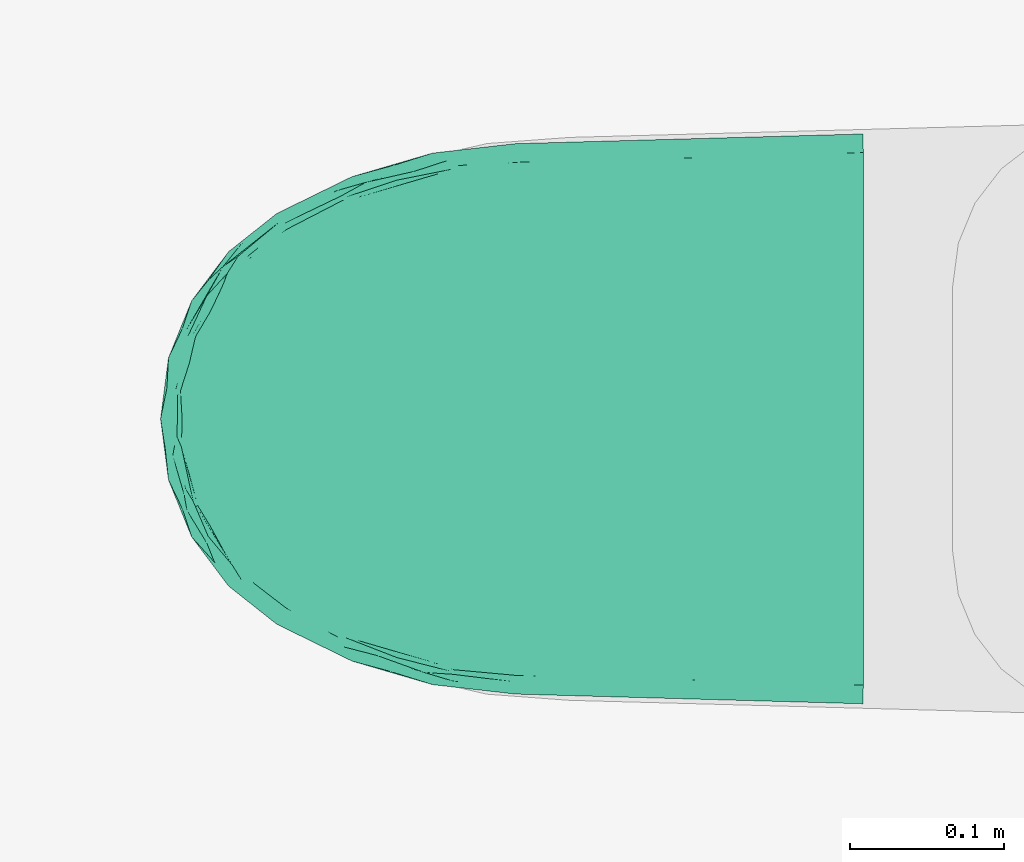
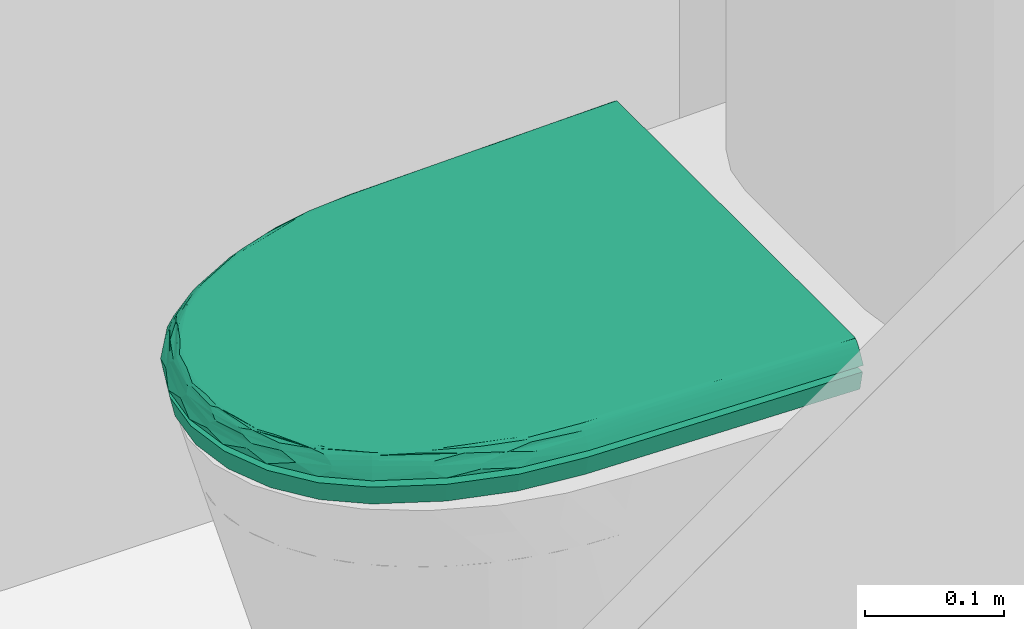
# One storey, part 65 of 75: 1 flow terminal.
"""IFC2X3 building model written with IfcOpenShell, lengths in metres."""

from ifc_helpers import new_model, entity, si_unit, converted_unit, derived_unit, direction, frame, origin, place, context, subcontext, project, spatial, faceted_brep, source, transform, mapped, material, type_object, type_shapes, element, save


model = new_model("IFC2X3")

# Units and contexts
model_context = context("Model", 3, precision=1e-05, world=origin(), true_north=direction((6.12303176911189e-17, 1.0)))
body_context = subcontext(model_context, "Body", "Model", "MODEL_VIEW")
ifc_project = project(units=[si_unit("LENGTHUNIT", "METRE"), si_unit("AREAUNIT", "SQUARE_METRE"), si_unit("VOLUMEUNIT", "CUBIC_METRE"), converted_unit("PLANEANGLEUNIT", "DEGREE", entity("IfcRatioMeasure", 0.0174532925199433), si_unit("PLANEANGLEUNIT", "RADIAN"), dimensions=[0, 0, 0, 0, 0, 0, 0]), si_unit("MASSUNIT", "GRAM", prefix="KILO"), derived_unit("MASSDENSITYUNIT", [(si_unit("MASSUNIT", "GRAM", prefix="KILO"), 1), (si_unit("LENGTHUNIT", "METRE"), -3)]), derived_unit("MOMENTOFINERTIAUNIT", [(si_unit("LENGTHUNIT", "METRE"), 4)]), si_unit("TIMEUNIT", "SECOND"), si_unit("FREQUENCYUNIT", "HERTZ"), si_unit("THERMODYNAMICTEMPERATUREUNIT", "DEGREE_CELSIUS"), derived_unit("THERMALTRANSMITTANCEUNIT", [(si_unit("MASSUNIT", "GRAM", prefix="KILO"), 1), (si_unit("THERMODYNAMICTEMPERATUREUNIT", "KELVIN"), -1), (si_unit("TIMEUNIT", "SECOND"), -3)]), derived_unit("VOLUMETRICFLOWRATEUNIT", [(si_unit("LENGTHUNIT", "METRE"), 3), (si_unit("TIMEUNIT", "SECOND"), -1)]), si_unit("ELECTRICCURRENTUNIT", "AMPERE"), si_unit("ELECTRICVOLTAGEUNIT", "VOLT"), si_unit("POWERUNIT", "WATT"), si_unit("FORCEUNIT", "NEWTON", prefix="KILO"), si_unit("ILLUMINANCEUNIT", "LUX"), si_unit("LUMINOUSFLUXUNIT", "LUMEN"), si_unit("LUMINOUSINTENSITYUNIT", "CANDELA"), derived_unit("USERDEFINED", [(si_unit("MASSUNIT", "GRAM", prefix="KILO"), -1), (si_unit("LENGTHUNIT", "METRE"), -2), (si_unit("TIMEUNIT", "SECOND"), 3), (si_unit("LUMINOUSFLUXUNIT", "LUMEN"), 1)]), derived_unit("LINEARVELOCITYUNIT", [(si_unit("LENGTHUNIT", "METRE"), 1), (si_unit("TIMEUNIT", "SECOND"), -1)]), si_unit("PRESSUREUNIT", "PASCAL"), derived_unit("USERDEFINED", [(si_unit("LENGTHUNIT", "METRE"), -2), (si_unit("MASSUNIT", "GRAM", prefix="KILO"), 1), (si_unit("TIMEUNIT", "SECOND"), -2)]), derived_unit("LINEARFORCEUNIT", [(si_unit("MASSUNIT", "GRAM", prefix="KILO"), 1), (si_unit("LENGTHUNIT", "METRE"), 1), (si_unit("TIMEUNIT", "SECOND"), -2), (si_unit("LENGTHUNIT", "METRE"), -1)]), derived_unit("PLANARFORCEUNIT", [(si_unit("MASSUNIT", "GRAM", prefix="KILO"), 1), (si_unit("LENGTHUNIT", "METRE"), 1), (si_unit("TIMEUNIT", "SECOND"), -2), (si_unit("LENGTHUNIT", "METRE"), -2)])], contexts=[model_context])

# Site, building, storey
site_placement = place(None, origin())
site = spatial("IfcSite", under=ifc_project, at=site_placement, Name="Superficie", CompositionType="ELEMENT")
building_placement = place(site_placement, origin())
building = spatial("IfcBuilding", under=site, at=building_placement, Name="Telegestiones", CompositionType="ELEMENT")
storey_placement = place(building_placement, origin())
storey = spatial("IfcBuildingStorey", under=building, at=storey_placement, Name="Nivel 0_NPT", CompositionType="ELEMENT", Elevation=0.0)

# Flow terminal
ifc_material = material(Name="Plastico - Ferrum - Urea - Blanco")
distribution_element_type = type_object("IfcDistributionElementType", Name="Inodoro-Ferrum-Marina-Tapa_y_Asiento:Tapa de Inodoro", material=ifc_material)
shared_shape = source(origin(), body_context, "Body", "Brep", [
    faceted_brep([(0.001595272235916, 0.456635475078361, 0.024059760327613), (0.00438804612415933, 0.456713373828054, 0.0292542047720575), (0.0069939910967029, 0.45678606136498, 0.0335042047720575), (0.00941310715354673, 0.456853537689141, 0.036809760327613), (0.0116453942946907, 0.456915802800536, 0.0391708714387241), (0.0136908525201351, 0.456972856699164, 0.0405875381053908), (0.0155494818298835, 0.457024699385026, 0.041059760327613), (0.0155494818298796, 0.457024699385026, 0.0240597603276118), (0.356866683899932, 0.457024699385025, 0.024059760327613), (0.356866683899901, 0.457024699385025, 0.041059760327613), (0.358725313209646, 0.456972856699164, 0.0405875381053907), (0.36077077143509, 0.456915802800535, 0.0391708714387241), (0.363003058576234, 0.456853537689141, 0.036809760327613), (0.365422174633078, 0.45678606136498, 0.0335042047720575), (0.368028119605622, 0.456713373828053, 0.0292542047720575), (0.370820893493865, 0.456635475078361, 0.024059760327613), (0.0165302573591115, 0.421862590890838, 0.041059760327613), (0.0178998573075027, 0.372760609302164, 0.041059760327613), (0.0198614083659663, 0.302436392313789, 0.041059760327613), (0.0218229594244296, 0.23211217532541, 0.0410597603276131), (0.027695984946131, 0.180536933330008, 0.0410597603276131), (0.0422596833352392, 0.130713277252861, 0.0410597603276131), (0.0650892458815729, 0.0840945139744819, 0.041059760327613), (0.0876065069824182, 0.055650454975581, 0.041059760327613), (0.116624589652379, 0.0338779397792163, 0.041059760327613), (0.150230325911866, 0.0202124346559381, 0.0410597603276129), (0.186208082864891, 0.0155549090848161, 0.0410597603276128), (0.222185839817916, 0.0202124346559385, 0.0410597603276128), (0.255791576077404, 0.0338779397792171, 0.0410597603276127), (0.284809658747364, 0.0556504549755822, 0.0410597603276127), (0.307326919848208, 0.0840945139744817, 0.0410597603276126), (0.330156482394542, 0.130713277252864, 0.0410597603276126), (0.34472018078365, 0.180536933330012, 0.0410597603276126), (0.350593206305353, 0.232112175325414, 0.0410597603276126), (0.351573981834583, 0.267274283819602, 0.041059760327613), (0.352943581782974, 0.316376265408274, 0.041059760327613), (0.354905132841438, 0.38670048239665, 0.041059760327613), (0.359621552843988, 0.29306195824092, 0.0352750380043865), (0.361625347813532, 0.274753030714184, 0.0314972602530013), (0.36307674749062, 0.326787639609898, 0.0314972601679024), (0.365222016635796, 0.403698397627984, 0.0314972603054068), (0.362298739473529, 0.389042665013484, 0.0352750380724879), (0.357834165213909, 0.389167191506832, 0.0399972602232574), (0.356913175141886, 0.410045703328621, 0.0408017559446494), (0.357025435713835, 0.344476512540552, 0.0396759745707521), (0.360402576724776, 0.404507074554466, 0.0381083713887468), (0.353536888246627, 0.291789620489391, 0.0408295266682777), (0.355341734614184, 0.299810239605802, 0.0399972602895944), (0.357035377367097, 0.283788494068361, 0.0381083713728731), (0.352451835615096, 0.232060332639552, 0.0405875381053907), (0.356729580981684, 0.231941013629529, 0.0368097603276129), (0.35449729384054, 0.232003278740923, 0.039170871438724), (0.365723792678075, 0.350304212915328, 0.028075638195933), (0.366508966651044, 0.302047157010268, 0.024059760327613), (0.368470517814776, 0.372371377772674, 0.024059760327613), (0.355332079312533, 0.348898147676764, 0.0407542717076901), (0.364180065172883, 0.300719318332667, 0.0283642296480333), (0.359148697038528, 0.231873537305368, 0.0335042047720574), (0.361754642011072, 0.231800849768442, 0.0292542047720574), (0.367244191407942, 0.398171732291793, 0.0277403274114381), (0.36964570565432, 0.414503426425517, 0.024059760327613), (0.360553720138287, 0.34106364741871, 0.0358205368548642), (0.358726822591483, 0.344429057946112, 0.0381083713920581), (0.364547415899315, 0.231722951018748, 0.024059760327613), (0.358404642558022, 0.177778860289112, 0.024059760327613), (0.34317203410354, 0.125666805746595, 0.024059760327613), (0.31929391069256, 0.076906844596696, 0.0240597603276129), (0.294551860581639, 0.0456524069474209, 0.0240597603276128), (0.262666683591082, 0.0217286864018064, 0.0240597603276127), (0.225740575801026, 0.00671297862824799, 0.0240597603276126), (0.18620808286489, 0.00159527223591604, 0.0240597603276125), (0.146675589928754, 0.00671297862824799, 0.0240597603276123), (0.109749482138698, 0.0217286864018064, 0.0240597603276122), (0.077864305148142, 0.0456524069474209, 0.0240597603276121), (0.0531222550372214, 0.0769068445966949, 0.024059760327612), (0.029244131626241, 0.125666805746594, 0.0240597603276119), (0.0140115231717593, 0.17777886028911, 0.0240597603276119), (0.00786874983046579, 0.231722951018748, 0.0240597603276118), (0.00669356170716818, 0.273855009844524, 0.024059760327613), (0.00551837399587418, 0.315987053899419, 0.024059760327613), (0.00355682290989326, 0.38631127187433, 0.024059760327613), (0.348766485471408, 0.19184404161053, 0.0405359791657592), (0.349863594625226, 0.189923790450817, 0.0396286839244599), (0.310675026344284, 0.0820835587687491, 0.039170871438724), (0.312589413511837, 0.0809337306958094, 0.0368097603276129), (0.339580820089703, 0.141992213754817, 0.0380822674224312), (0.316898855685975, 0.0783453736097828, 0.0292542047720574), (0.334448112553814, 0.116810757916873, 0.0324641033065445), (0.314664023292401, 0.0796876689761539, 0.0335042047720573), (0.351727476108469, 0.191045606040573, 0.0380922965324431), (0.350466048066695, 0.172235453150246, 0.035239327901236), (0.357674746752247, 0.188271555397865, 0.0289584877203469), (0.348361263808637, 0.152432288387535, 0.0307862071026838), (0.336324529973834, 0.116342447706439, 0.0292921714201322), (0.3340712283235, 0.120766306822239, 0.0352481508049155), (0.349702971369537, 0.149947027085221, 0.0272890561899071), (0.328370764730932, 0.122507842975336, 0.0407801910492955), (0.308920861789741, 0.0831371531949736, 0.0405875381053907), (0.340839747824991, 0.154630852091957, 0.0402739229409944), (0.326302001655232, 0.114016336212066, 0.039960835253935), (0.356097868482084, 0.191008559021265, 0.0323074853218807), (0.206137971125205, 0.00469480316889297, 0.0274750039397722), (0.0918736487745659, 0.0448195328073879, 0.0379312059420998), (0.0617411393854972, 0.0820835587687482, 0.0391708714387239), (0.0598267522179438, 0.0809337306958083, 0.0368097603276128), (0.271117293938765, 0.042209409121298, 0.0407977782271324), (0.242566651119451, 0.0257569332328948, 0.0407855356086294), (0.239485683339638, 0.0226589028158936, 0.0398351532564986), (0.281086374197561, 0.0481515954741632, 0.0399058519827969), (0.197949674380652, 0.0122613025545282, 0.0392893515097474), (0.20434819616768, 0.0150990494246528, 0.0407002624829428), (0.168067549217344, 0.0144776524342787, 0.0403940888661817), (0.170441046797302, 0.00822595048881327, 0.034090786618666), (0.166278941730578, 0.00570428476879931, 0.0292662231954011), (0.206136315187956, 0.00691960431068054, 0.0313090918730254), (0.127777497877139, 0.0157377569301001, 0.0287773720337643), (0.292755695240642, 0.0621048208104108, 0.0408263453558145), (0.0960686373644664, 0.043351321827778, 0.0393951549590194), (0.132914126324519, 0.0216644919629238, 0.0390716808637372), (0.101228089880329, 0.0411914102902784, 0.0403940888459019), (0.290126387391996, 0.0537118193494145, 0.0379796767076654), (0.279094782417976, 0.0365256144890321, 0.0300373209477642), (0.298002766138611, 0.0556782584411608, 0.0320683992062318), (0.294844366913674, 0.0552482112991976, 0.0351018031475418), (0.299417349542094, 0.0541811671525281, 0.0285967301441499), (0.127833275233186, 0.0186776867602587, 0.0332865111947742), (0.166466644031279, 0.0116486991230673, 0.037846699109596), (0.170334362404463, 0.0127334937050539, 0.0393546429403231), (0.244637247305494, 0.0158147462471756, 0.0289041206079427), (0.262322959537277, 0.0324450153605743, 0.0385687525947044), (0.0634953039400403, 0.0831371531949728, 0.0405875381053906), (0.0809354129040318, 0.0605511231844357, 0.0407924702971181), (0.0874076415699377, 0.0421879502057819, 0.0311281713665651), (0.0732843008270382, 0.0535465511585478, 0.0282099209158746), (0.0959605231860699, 0.0328608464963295, 0.0276535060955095), (0.0786474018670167, 0.0607623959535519, 0.0399426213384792), (0.132957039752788, 0.024235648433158, 0.0407002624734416), (0.0577521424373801, 0.0796876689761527, 0.0335042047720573), (0.0807690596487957, 0.0519072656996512, 0.0350760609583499), (0.132771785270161, 0.0192933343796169, 0.0366404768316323), (0.235685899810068, 0.0169871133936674, 0.0356307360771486), (0.266675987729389, 0.0315725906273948, 0.0348948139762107), (0.231657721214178, 0.0178496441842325, 0.038162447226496), (0.106545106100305, 0.0314888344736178, 0.035394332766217), (0.0555173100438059, 0.0783453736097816, 0.0292542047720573), (0.245448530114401, 0.0186226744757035, 0.0326873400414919), (0.204351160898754, 0.0105368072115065, 0.0368097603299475), (0.210021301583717, 0.00948524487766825, 0.0343542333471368), (0.0449403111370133, 0.119006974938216, 0.0405359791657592), (0.0429816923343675, 0.120034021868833, 0.0396286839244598), (0.0179188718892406, 0.232003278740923, 0.0391708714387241), (0.0156865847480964, 0.231941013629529, 0.036809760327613), (0.0258300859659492, 0.165957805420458, 0.0380822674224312), (0.0106615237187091, 0.231800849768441, 0.0292542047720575), (0.0165922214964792, 0.189939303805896, 0.0324641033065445), (0.0132674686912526, 0.231873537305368, 0.0335042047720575), (0.0420154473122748, 0.118084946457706, 0.0380922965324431), (0.0329472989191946, 0.134613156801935, 0.035239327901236), (0.0355103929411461, 0.117219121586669, 0.0289584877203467), (0.0240549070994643, 0.152432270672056, 0.0307862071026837), (0.0147589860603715, 0.189323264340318, 0.0292921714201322), (0.0190401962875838, 0.186809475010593, 0.0352481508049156), (0.0215858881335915, 0.153803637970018, 0.0272890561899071), (0.0247811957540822, 0.1884123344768, 0.0407801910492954), (0.019964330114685, 0.232060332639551, 0.0405875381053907), (0.0315764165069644, 0.154630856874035, 0.0402739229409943), (0.0219508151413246, 0.196681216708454, 0.039960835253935), (0.0383131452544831, 0.115762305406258, 0.0323074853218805), (0.00993267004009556, 0.395666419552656, 0.0352750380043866), (0.00691140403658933, 0.413835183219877, 0.0314972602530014), (0.00836280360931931, 0.361800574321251, 0.0314972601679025), (0.0170744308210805, 0.299810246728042, 0.0399972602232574), (0.0191578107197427, 0.279015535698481, 0.0408017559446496), (0.0153907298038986, 0.344476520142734, 0.0396759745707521), (0.0153650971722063, 0.284351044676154, 0.0381083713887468), (0.0159369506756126, 0.397275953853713, 0.0408295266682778), (0.0126098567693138, 0.299685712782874, 0.0352750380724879), (0.0145820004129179, 0.389167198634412, 0.0399972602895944), (0.0119978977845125, 0.40506962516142, 0.0381083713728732), (0.0070307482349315, 0.338173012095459, 0.0280756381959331), (0.0105080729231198, 0.284889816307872, 0.0314972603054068), (0.0173279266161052, 0.340156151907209, 0.0407542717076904), (0.00580808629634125, 0.387766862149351, 0.0283642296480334), (0.00818097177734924, 0.290295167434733, 0.027740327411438), (0.0116776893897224, 0.347687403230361, 0.0358205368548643), (0.0136893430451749, 0.344429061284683, 0.0381083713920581)], [[[0, 1, 2, 3, 4, 5, 6, 7]], [[8, 9, 10, 11, 12, 13, 14, 15]], [[6, 16, 17, 18, 19, 20, 21, 22, 23, 24, 25, 26, 27, 28, 29, 30, 31, 32, 33, 34, 35, 36, 9]], [[6, 9, 8, 7]], [[37, 38, 39]], [[40, 41, 39]], [[42, 10, 43]], [[44, 45, 42]], [[45, 12, 11]], [[34, 46, 35]], [[10, 9, 43]], [[13, 12, 41]], [[47, 48, 44]], [[46, 34, 49]], [[50, 37, 48]], [[49, 51, 47]], [[51, 50, 48]], [[52, 53, 54]], [[14, 13, 40]], [[55, 43, 36]], [[52, 56, 53]], [[11, 10, 42]], [[50, 57, 37]], [[42, 45, 11]], [[38, 57, 58]], [[38, 58, 56]], [[59, 60, 14]], [[46, 47, 55]], [[13, 41, 40]], [[37, 39, 61]], [[41, 45, 62]], [[63, 56, 58]], [[62, 61, 41]], [[54, 59, 52]], [[12, 45, 41]], [[44, 48, 62, 45]], [[51, 48, 47]], [[62, 48, 61]], [[57, 38, 37]], [[39, 38, 56]], [[52, 39, 56]], [[63, 53, 56]], [[52, 40, 39]], [[40, 52, 59]], [[59, 14, 40]], [[34, 33, 49]], [[15, 14, 60]], [[59, 54, 60]], [[35, 46, 55]], [[47, 46, 49]], [[35, 55, 36]], [[44, 42, 55]], [[47, 44, 55]], [[42, 43, 55]], [[36, 43, 9]], [[41, 61, 39]], [[37, 61, 48]], [[8, 15, 60, 54, 53, 63, 64, 65, 66, 67, 68, 69, 70, 71, 72, 73, 74, 75, 76, 77, 78, 79, 80, 0, 7]], [[81, 82, 49]], [[83, 84, 85]], [[32, 81, 33]], [[86, 87, 88]], [[89, 90, 50]], [[89, 82, 85]], [[58, 91, 63]], [[90, 89, 85]], [[92, 87, 93]], [[87, 94, 88]], [[90, 57, 50]], [[95, 91, 92]], [[51, 89, 50]], [[85, 94, 90]], [[32, 31, 96]], [[90, 87, 92]], [[30, 97, 96]], [[33, 81, 49]], [[81, 98, 82]], [[99, 98, 96]], [[91, 100, 92]], [[99, 85, 98]], [[87, 86, 93]], [[94, 87, 90]], [[91, 58, 100]], [[84, 88, 94]], [[66, 65, 93]], [[92, 93, 95]], [[82, 89, 51]], [[85, 84, 94]], [[85, 82, 98]], [[96, 31, 30]], [[32, 98, 81]], [[49, 82, 51]], [[66, 93, 86]], [[95, 93, 65]], [[65, 64, 95]], [[64, 63, 91]], [[64, 91, 95]], [[100, 58, 57]], [[57, 90, 100]], [[90, 92, 100]], [[99, 97, 83]], [[32, 96, 98]], [[97, 99, 96]], [[85, 99, 83]], [[69, 101, 70]], [[102, 103, 104]], [[105, 29, 28]], [[105, 106, 107]], [[105, 107, 108]], [[109, 110, 111]], [[111, 110, 26]], [[112, 113, 114]], [[71, 115, 72]], [[116, 30, 29]], [[117, 118, 119]], [[108, 83, 97]], [[84, 83, 120]], [[67, 121, 68]], [[122, 88, 123]], [[86, 124, 66]], [[26, 110, 27]], [[120, 83, 108]], [[113, 112, 125]], [[88, 122, 86]], [[126, 109, 127]], [[84, 123, 88]], [[128, 69, 68]], [[68, 121, 128]], [[111, 26, 25]], [[106, 110, 107]], [[70, 113, 71]], [[122, 124, 86]], [[108, 129, 120]], [[109, 107, 110]], [[22, 130, 131]], [[132, 133, 134]], [[117, 119, 135]], [[119, 136, 24]], [[24, 23, 119]], [[118, 111, 136]], [[105, 116, 29]], [[137, 138, 104]], [[115, 132, 134]], [[112, 126, 139]], [[138, 137, 132]], [[103, 135, 130]], [[115, 71, 113]], [[101, 113, 70]], [[74, 73, 133]], [[140, 141, 129]], [[142, 140, 129]], [[143, 125, 139]], [[144, 133, 137]], [[138, 143, 102]], [[133, 132, 137]], [[25, 24, 136]], [[141, 140, 145]], [[130, 135, 131]], [[127, 118, 126]], [[109, 146, 142]], [[118, 136, 119]], [[111, 25, 136]], [[143, 132, 125]], [[102, 104, 138]], [[129, 108, 107]], [[123, 120, 141]], [[145, 121, 141]], [[101, 128, 114]], [[147, 112, 114]], [[126, 146, 109]], [[113, 125, 115]], [[132, 115, 125]], [[139, 126, 118]], [[112, 146, 126]], [[120, 123, 84]], [[122, 141, 121]], [[102, 139, 118]], [[112, 139, 125]], [[105, 28, 106]], [[116, 108, 97]], [[28, 27, 106]], [[110, 106, 27]], [[142, 129, 107]], [[141, 120, 129]], [[109, 142, 107]], [[142, 146, 140]], [[146, 147, 140]], [[145, 114, 128]], [[145, 140, 147]], [[121, 145, 128]], [[108, 116, 105]], [[30, 116, 97]], [[102, 135, 103]], [[131, 119, 23]], [[119, 131, 135]], [[22, 131, 23]], [[141, 122, 123]], [[122, 121, 124]], [[121, 67, 124]], [[66, 124, 67]], [[102, 143, 139]], [[132, 143, 138]], [[112, 147, 146]], [[145, 147, 114]], [[135, 102, 117]], [[118, 117, 102]], [[128, 101, 69]], [[113, 101, 114]], [[74, 133, 144]], [[134, 73, 72]], [[73, 134, 133]], [[115, 134, 72]], [[109, 111, 127]], [[118, 127, 111]], [[148, 149, 130]], [[150, 151, 152]], [[21, 148, 22]], [[153, 154, 155]], [[156, 157, 104]], [[156, 149, 152]], [[144, 158, 74]], [[157, 156, 152]], [[159, 154, 160]], [[154, 161, 155]], [[157, 137, 104]], [[162, 158, 159]], [[103, 156, 104]], [[152, 161, 157]], [[21, 20, 163]], [[157, 154, 159]], [[19, 164, 163]], [[22, 148, 130]], [[148, 165, 149]], [[166, 165, 163]], [[158, 167, 159]], [[166, 152, 165]], [[154, 153, 160]], [[161, 154, 157]], [[158, 144, 167]], [[151, 155, 161]], [[77, 76, 160]], [[159, 160, 162]], [[149, 156, 103]], [[152, 151, 161]], [[152, 149, 165]], [[163, 20, 19]], [[21, 165, 148]], [[130, 149, 103]], [[77, 160, 153]], [[162, 160, 76]], [[76, 75, 162]], [[75, 74, 158]], [[75, 158, 162]], [[167, 144, 137]], [[137, 157, 167]], [[157, 159, 167]], [[166, 164, 150]], [[21, 163, 165]], [[164, 166, 163]], [[152, 166, 150]], [[168, 169, 170]], [[171, 164, 172]], [[173, 174, 171]], [[174, 151, 150]], [[16, 175, 17]], [[164, 19, 172]], [[155, 151, 176]], [[177, 178, 173]], [[175, 16, 5]], [[3, 168, 178]], [[5, 4, 177]], [[4, 3, 178]], [[179, 80, 79]], [[153, 155, 180]], [[181, 172, 18]], [[179, 182, 80]], [[150, 164, 171]], [[3, 2, 168]], [[171, 174, 150]], [[169, 2, 1]], [[169, 1, 182]], [[183, 78, 153]], [[175, 177, 181]], [[155, 176, 180]], [[168, 170, 184]], [[176, 174, 185]], [[0, 182, 1]], [[185, 184, 176]], [[79, 183, 179]], [[180, 176, 170]], [[151, 174, 176]], [[173, 178, 185, 174]], [[4, 178, 177]], [[185, 178, 184]], [[2, 169, 168]], [[170, 169, 182]], [[179, 170, 182]], [[0, 80, 182]], [[179, 180, 170]], [[180, 179, 183]], [[183, 153, 180]], [[16, 6, 5]], [[77, 153, 78]], [[183, 79, 78]], [[17, 175, 181]], [[177, 175, 5]], [[17, 181, 18]], [[173, 171, 181]], [[177, 173, 181]], [[171, 172, 181]], [[18, 172, 19]], [[176, 184, 170]], [[168, 184, 178]]]),
    faceted_brep([(0.356866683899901, 0.457024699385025, 0.017550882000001), (0.369571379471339, 0.456670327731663, 0.0175508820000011), (0.365620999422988, 0.456780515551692, 0.0), (0.356866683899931, 0.457024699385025, 0.0), (0.0155494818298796, 0.457024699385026, 0.0175508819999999), (0.00284478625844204, 0.456670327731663, 0.0175508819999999), (0.00911826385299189, 0.231757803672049, 0.0175508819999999), (0.0152368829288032, 0.178025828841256, 0.0175508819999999), (0.0304095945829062, 0.126118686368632, 0.017550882), (0.0541938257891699, 0.0775504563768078, 0.0175508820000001), (0.0787366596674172, 0.0465476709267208, 0.0175508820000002), (0.110365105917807, 0.0228165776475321, 0.0175508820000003), (0.146993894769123, 0.00792177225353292, 0.0175508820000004), (0.18620808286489, 0.00284527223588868, 0.0175508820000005), (0.225422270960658, 0.00792177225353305, 0.0175508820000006), (0.262051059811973, 0.0228165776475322, 0.0175508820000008), (0.293679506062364, 0.0465476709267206, 0.0175508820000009), (0.31822233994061, 0.0775504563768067, 0.017550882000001), (0.342006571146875, 0.126118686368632, 0.017550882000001), (0.357179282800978, 0.178025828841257, 0.0175508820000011), (0.363297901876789, 0.231757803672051, 0.0175508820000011), (0.359347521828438, 0.231867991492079, 0.0), (0.353305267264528, 0.178806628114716, 0.0), (0.338321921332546, 0.127547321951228, 0.0), (0.314834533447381, 0.0795852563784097, 0.0), (0.290921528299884, 0.0493780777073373, 0.0), (0.260104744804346, 0.0262559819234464, 0.0), (0.224415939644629, 0.0117434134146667, 0.0), (0.18620808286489, 0.00679718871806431, 0.0), (0.148000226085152, 0.0117434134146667, 0.0), (0.112311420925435, 0.0262559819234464, 0.0), (0.0814946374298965, 0.0493780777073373, 0.0), (0.0575816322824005, 0.0795852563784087, 0.0), (0.0340942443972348, 0.127547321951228, 0.0), (0.0191108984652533, 0.178806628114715, 0.0), (0.0130686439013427, 0.23186799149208, 0.0), (0.00679516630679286, 0.456780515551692, 0.0), (0.0155494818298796, 0.457024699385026, 0.0)], [[[0, 1, 2, 3]], [[4, 5, 6, 7, 8, 9, 10, 11, 12, 13, 14, 15, 16, 17, 18, 19, 20, 1, 0]], [[2, 1, 20, 21]], [[3, 2, 21, 22, 23, 24, 25, 26, 27, 28, 29, 30, 31, 32, 33, 34, 35, 36, 37]], [[20, 19, 22, 21]], [[19, 18, 23, 22]], [[18, 17, 24, 23]], [[24, 17, 16, 25]], [[16, 15, 26, 25]], [[14, 27, 26, 15]], [[27, 14, 13, 28]], [[12, 11, 30, 29]], [[11, 10, 31, 30]], [[32, 31, 10, 9]], [[28, 13, 12, 29]], [[9, 8, 33, 32]], [[8, 7, 34, 33]], [[7, 6, 35, 34]], [[37, 36, 5, 4]], [[35, 6, 5, 36]], [[3, 37, 4, 0]]]),
])
type_shapes(distribution_element_type, [shared_shape])
flow_terminal_placement = place(storey_placement, frame((5.16842239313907, 7.25981531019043, 0.444820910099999), z_axis=(0.0, 0.0, 1.0), x_axis=(0.0, -1.0, 0.0)))
element("IfcFlowTerminal", 1, at=flow_terminal_placement, inside=storey, type_object=distribution_element_type, material=ifc_material, Name="Inodoro-Ferrum-Marina-Tapa_y_Asiento:Tapa de Inodoro", ObjectType="Inodoro-Ferrum-Marina-Tapa_y_Asiento:Tapa de Inodoro", context=body_context, shape_type="MappedRepresentation", body=[
    mapped(shared_shape, transform((0.0, 0.0, 0.0), scale=1.0)),
])

save(model, "model.ifc")
